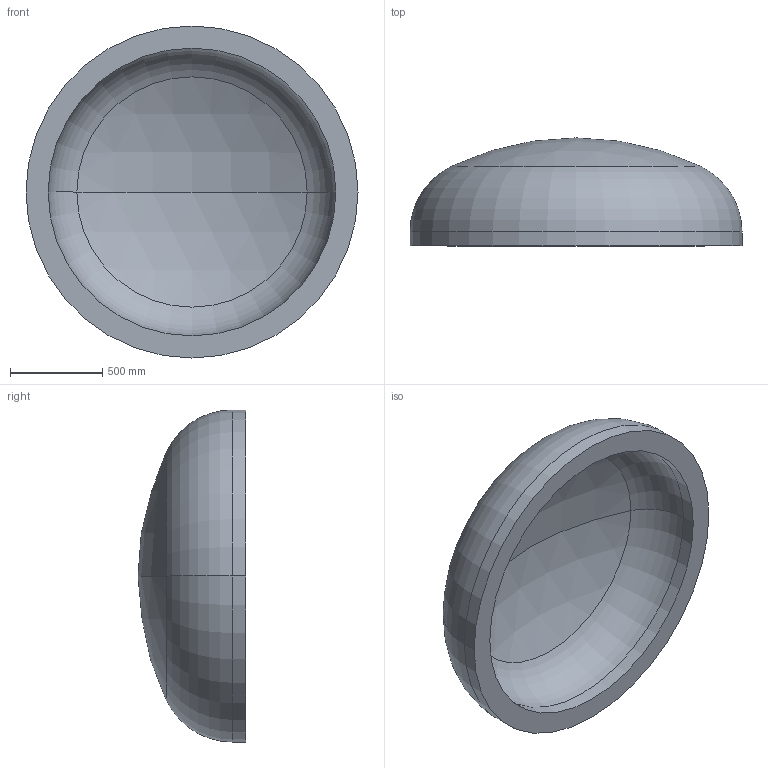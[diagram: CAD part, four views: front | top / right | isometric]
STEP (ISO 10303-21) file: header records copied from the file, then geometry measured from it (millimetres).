
FILE_DESCRIPTION (( 'STEP AP203' ), '1' );
FILE_NAME ('DIN 28013 Korbbogenform_-_Boden DIN 28013 - 1800 x 75 - I - s=120.step', '2016-07-01T12:50:08', ( '' ), ( '' ), 'SwSTEP 2.0', 'SolidWorks 2013', '' );
FILE_SCHEMA (( 'CONFIG_CONTROL_DESIGN' ));
Length unit declared in the file: millimetre
Products named in the file (1): DIN 28013 Korbbogenform_-_Boden DIN 28013 - 1800 x 75 - I - s=120
Bounding box: 1800 x 585.14 x 1800 mm (x, y, z)
Volume: 435501940 mm3; surface area: 7921868.3 mm2
Topology: 1 solids, 1 shells, 13 faces, 24 edges, 14 vertices
Faces by surface type: torus 4, cylinder 4, sphere 4, plane 1
Entity records: 407 total; most frequent: DIRECTION 72, CARTESIAN_POINT 52, ORIENTED_EDGE 48, AXIS2_PLACEMENT_3D 34, EDGE_CURVE 24, CIRCLE 20, VERTEX_POINT 14, EDGE_LOOP 14
